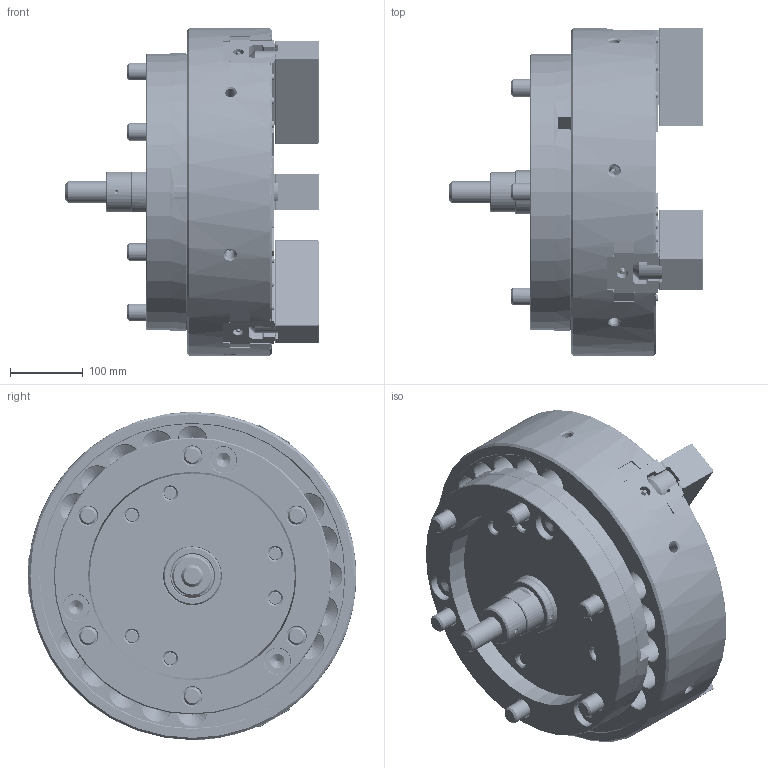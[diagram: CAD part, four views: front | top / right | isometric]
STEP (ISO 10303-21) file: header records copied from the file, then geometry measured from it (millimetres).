
FILE_DESCRIPTION (( 'STEP AP214' ), '1' );
FILE_NAME ('DT1_NV18C15_OUTSIDE_VIEW_UC.STEP', '2026-03-24T02:54:55', ( '' ), ( '' ), 'SwSTEP 2.0', 'SolidWorks 2022', '' );
FILE_SCHEMA (( 'AUTOMOTIVE_DESIGN' ));
Length unit declared in the file: millimetre
Products named in the file (17): DT1_NV18C15_DRAWSCREW^DT1_NV18C1500; DT1_NV18C15_ORING^DT1_NV18C1500; Copy of 61P321208^DT1_NV18C1500; DT1_NV18C15_M20x110^DT1_NV18C1500; DT1_NV18C15_S39^DT1_NV18C1500_円筒用; DT1_NV18C15_BP^DT1_NV18C1500; DT1_NV18C15_DN^DT1_NV18C1500; DT1_NV18C15_CAP^DT1_NV18C1500; DT1_NV18C15_P80^DT1_NV18C1500_円筒用; DT1_NV18C15_COVER^DT1_NV18C1500; DT1_NV18C15_M6x12^DT1_NV18C1500; DT1_NV18C15_TNUT^DT1_NV18C1500; DT1_NV18C15_OUTSIDE_VIEW_UC; DT1_NV18C15_BASE^DT1_NV18C1500; DT1_NV18C15_SOFTJAW^DT1_NV18C1500; DT1_NV18C15_M20x55^DT1_NV18C1500; DT1_NV18C15_COVERFOOTER^DT1_NV18C1500
Assembly tree (45 placements, depth 2):
  DT1_NV18C15_OUTSIDE_VIEW_UC
    DT1_NV18C15_SOFTJAW^DT1_NV18C1500  x3
    DT1_NV18C15_TNUT^DT1_NV18C1500  x6
    DT1_NV18C15_COVER^DT1_NV18C1500
    DT1_NV18C15_DRAWSCREW^DT1_NV18C1500
    Copy of 61P321208^DT1_NV18C1500
    DT1_NV18C15_COVERFOOTER^DT1_NV18C1500
    DT1_NV18C15_DN^DT1_NV18C1500
    DT1_NV18C15_BP^DT1_NV18C1500
    DT1_NV18C15_BASE^DT1_NV18C1500
    DT1_NV18C15_M6x12^DT1_NV18C1500  x6
    DT1_NV18C15_M20x55^DT1_NV18C1500  x6
    DT1_NV18C15_M20x110^DT1_NV18C1500  x6
    DT1_NV18C15_S39^DT1_NV18C1500_円筒用
    DT1_NV18C15_P80^DT1_NV18C1500_円筒用
    DT1_NV18C15_CAP^DT1_NV18C1500  x6
    DT1_NV18C15_ORING^DT1_NV18C1500  x3
Bounding box: 347 x 450.75 x 450 mm (x, y, z)
Volume: 22493915.8 mm3; surface area: 1758110.9 mm2
Topology: 45 solids, 99 shells, 8740 faces, 24072 edges, 15602 vertices
Faces by surface type: plane 5524, cylinder 1295, cone 950, bspline 805, torus 160, sphere 6
Entity records: 254730 total; most frequent: CARTESIAN_POINT 81885, ORIENTED_EDGE 38536, DIRECTION 30871, EDGE_CURVE 19268, LINE 13363, VECTOR 13363, VERTEX_POINT 12598, AXIS2_PLACEMENT_3D 8754
